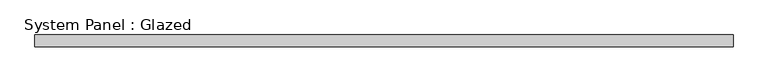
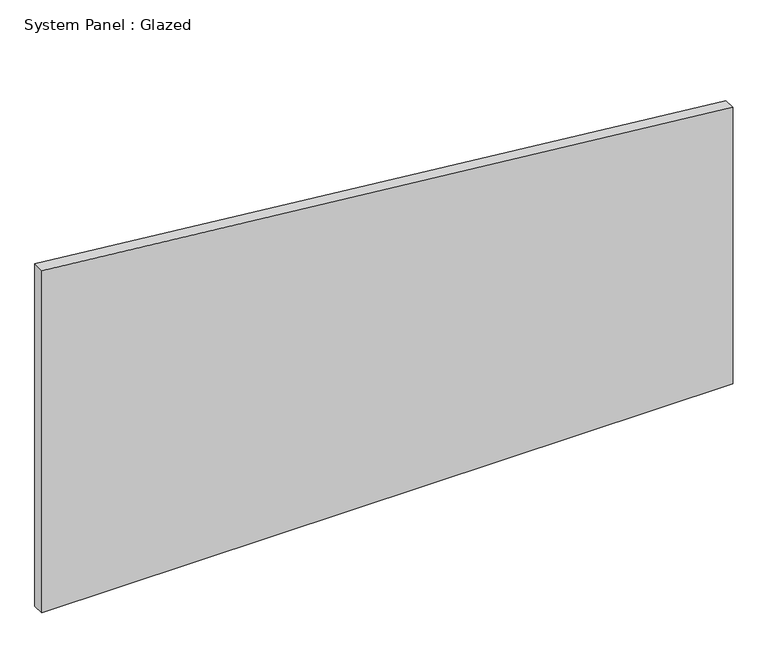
"""IFC4 building model written with IfcOpenShell, lengths in millimetres: plate geometry, System Panel : Glazed."""

from ifc_helpers import new_model, si_unit, frame, origin, place, context, project, spatial, polyline, outline, extrude, source, transform, mapped, element, save


def system_panel_glazed_18a6fb6c(model_context):
    return source(origin(), model_context, "Body", "SweptSolid", [
        extrude(outline(polyline([(0.0, -735.8695652), (0.0, 735.8695652), (622.4186045, 735.8695652), (770.4015832, -735.8695652), (0.0, -735.8695652)])), frame((0.0, 24.5, 0.0), z_axis=(0.0, 1.0, 0.0), x_axis=(0.0, 0.0, 1.0)), (0.0, 0.0, 1.0), 25.0),
    ])


if __name__ == "__main__":
    model = new_model("IFC4")
    model_context = context("Model", 3, world=origin())
    ifc_project = project(units=[si_unit("LENGTHUNIT", "METRE", prefix="MILLI")], contexts=[model_context])
    site = spatial("IfcSite", under=ifc_project)
    building = spatial("IfcBuilding", under=site)
    placement = place(None, origin())
    system_panel_glazed_shape = system_panel_glazed_18a6fb6c(model_context)
    element("IfcPlate", 1, ObjectType="System Panel : Glazed", at=placement, inside=building, context=model_context, shape_type="MappedRepresentation", body=[
        mapped(system_panel_glazed_shape, transform((0.0, 0.0, 0.0), x_axis=(1.0, 0.0, 0.0), y_axis=(0.0, 1.0, 0.0), z_axis=(0.0, 0.0, 1.0))),
    ])
    save(model, "model.ifc")
